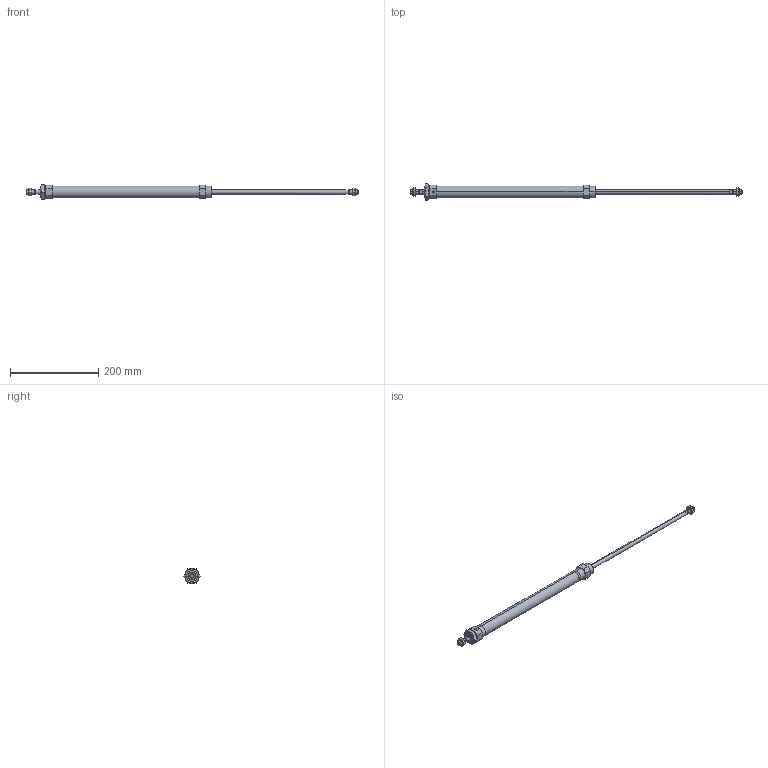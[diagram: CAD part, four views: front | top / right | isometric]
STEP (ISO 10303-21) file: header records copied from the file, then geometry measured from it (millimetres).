
FILE_DESCRIPTION (( 'STEP AP203' ), '1' );
FILE_NAME ('CSM2B25-300-P.STEP', '2020-07-20T16:45:12', ( '' ), ( '' ), 'SwSTEP 2.0', 'SolidWorks 2019', '' );
FILE_SCHEMA (( 'CONFIG_CONTROL_DESIGN' ));
Length unit declared in the file: millimetre
Products named in the file (1): CSM2B25-300-P
Bounding box: 752 x 36.95 x 32 mm (x, y, z)
Volume: 131597.9 mm3; surface area: 91414.5 mm2
Topology: 5 solids, 5 shells, 152 faces, 356 edges, 223 vertices
Faces by surface type: plane 62, cylinder 46, cone 44
Entity records: 5359 total; most frequent: CARTESIAN_POINT 1800, DIRECTION 738, ORIENTED_EDGE 708, EDGE_CURVE 354, AXIS2_PLACEMENT_3D 291, VERTEX_POINT 223, EDGE_LOOP 175, LINE 156
